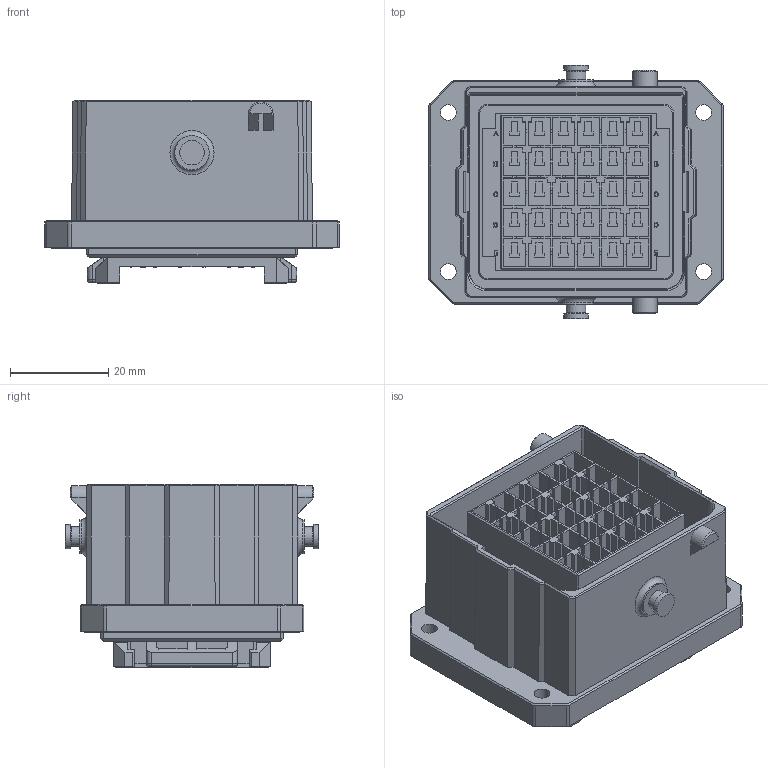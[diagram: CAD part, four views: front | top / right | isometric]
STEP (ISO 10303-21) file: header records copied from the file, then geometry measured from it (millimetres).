
FILE_DESCRIPTION (( 'STEP AP203' ), '1' );
FILE_NAME ('DK-3R30ETC-S(R1).STEP', '2023-03-16T06:51:37', ( '' ), ( '' ), 'SwSTEP 2.0', 'SolidWorks 2018', '' );
FILE_SCHEMA (( 'CONFIG_CONTROL_DESIGN' ));
Products named in the file (1): DK-3R30ETC-S(R1)
Bounding box: 60 x 51.6 x 37.4 mm (x, y, z)
Volume: 44457.2 mm3; surface area: 28862.1 mm2
Topology: 1 solids, 1 shells, 2577 faces, 7159 edges, 4712 vertices
Faces by surface type: plane 2019, bspline 375, cylinder 153, cone 24, torus 6
Full cylindrical faces by diameter (mm): 3.2 x4, 4 x2, 5 x2, 7 x2
Entity records: 92137 total; most frequent: CARTESIAN_POINT 28481, ORIENTED_EDGE 14286, DIRECTION 11109, EDGE_CURVE 7143, VECTOR 6043, LINE 6043, VERTEX_POINT 4710, EDGE_LOOP 2735
